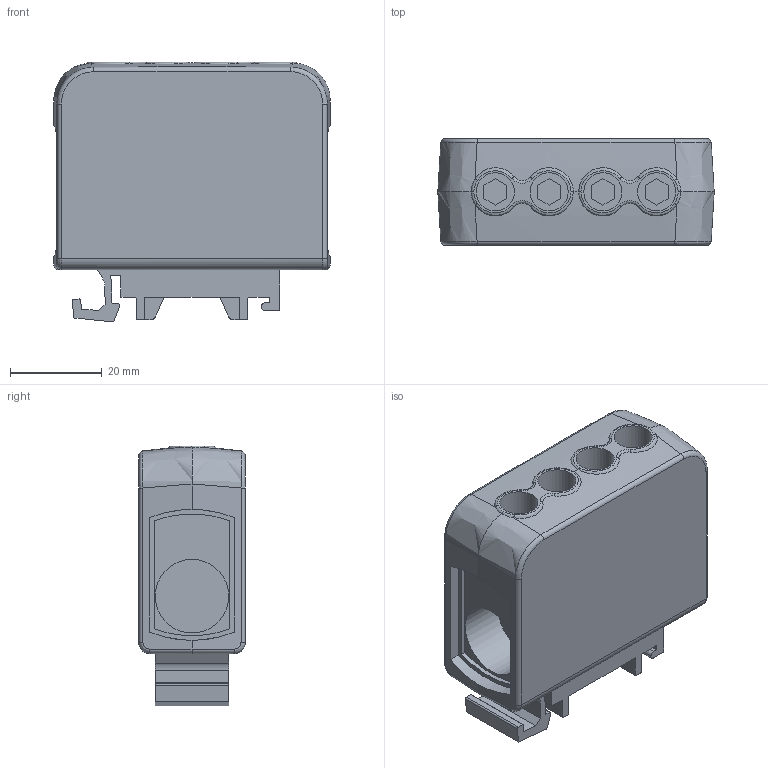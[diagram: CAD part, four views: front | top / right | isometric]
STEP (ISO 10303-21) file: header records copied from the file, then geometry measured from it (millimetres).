
FILE_DESCRIPTION(/* description */ ('Unknown'),/* implementation_level */ '2;1');
FILE_NAME(/* name */ 'utb 95_2x35',/* time_stamp */ '2021-04-01T13:08:19+02:00',/* author */ ('Unknown'),/* organization */ ('Unknown'),/* preprocessor_version */ 'ST-DEVELOPER v16.7',/* originating_system */ 'Solid Edge',/* authorisation */ 'Unknown');
FILE_SCHEMA (('AUTOMOTIVE_DESIGN {1 0 10303 214 3 1 1}'));
Length unit declared in the file: millimetre
Products named in the file (1): utb 95_2x35
Bounding box: 60.1 x 23.2 x 56.55 mm (x, y, z)
Volume: 56426.1 mm3; surface area: 13965.2 mm2
Topology: 1 solids, 1 shells, 164 faces, 419 edges, 271 vertices
Faces by surface type: plane 92, cylinder 40, bspline 28, torus 4
Full cylindrical faces by diameter (mm): 8.3 x4, 10 x2, 16 x1
Entity records: 5359 total; most frequent: CARTESIAN_POINT 1523, ORIENTED_EDGE 818, DIRECTION 736, EDGE_CURVE 409, VERTEX_POINT 268, LINE 248, VECTOR 248, AXIS2_PLACEMENT_3D 244
